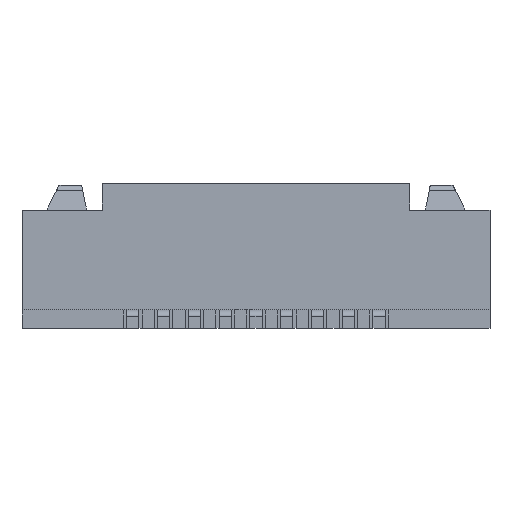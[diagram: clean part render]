
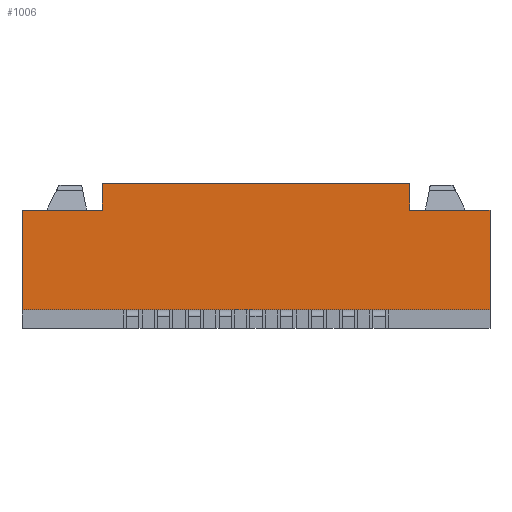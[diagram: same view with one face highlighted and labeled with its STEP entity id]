
A CAD part, front view. The second image highlights one B-rep face of the part: STEP entity #1006.
In plain terms, the highlighted planar face has unit normal (0, -1, 0).
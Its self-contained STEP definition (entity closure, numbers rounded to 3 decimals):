
#399=CARTESIAN_POINT('Vertex',(-2.5,-2.4,1.92)) ;
#402=CARTESIAN_POINT('Line Origine',(-2.5,-2.4,2.135)) ;
#406=CARTESIAN_POINT('Vertex',(-2.5,-2.4,2.35)) ;
#944=CARTESIAN_POINT('Axis2P3D Location',(0.,-2.4,0.3)) ;
#949=CARTESIAN_POINT('Line Origine',(-3.15,-2.4,1.92)) ;
#953=CARTESIAN_POINT('Vertex',(-3.8,-2.4,1.92)) ;
#956=CARTESIAN_POINT('Line Origine',(-3.8,-2.4,1.11)) ;
#960=CARTESIAN_POINT('Vertex',(-3.8,-2.4,0.3)) ;
#963=CARTESIAN_POINT('Line Origine',(0.,-2.4,0.3)) ;
#967=CARTESIAN_POINT('Vertex',(3.8,-2.4,0.3)) ;
#970=CARTESIAN_POINT('Line Origine',(3.8,-2.4,1.11)) ;
#974=CARTESIAN_POINT('Vertex',(3.8,-2.4,1.92)) ;
#977=CARTESIAN_POINT('Line Origine',(3.15,-2.4,1.92)) ;
#981=CARTESIAN_POINT('Vertex',(2.5,-2.4,1.92)) ;
#984=CARTESIAN_POINT('Line Origine',(2.5,-2.4,2.135)) ;
#988=CARTESIAN_POINT('Vertex',(2.5,-2.4,2.35)) ;
#991=CARTESIAN_POINT('Line Origine',(0.,-2.4,2.35)) ;
#403=DIRECTION('Vector Direction',(0.,0.,-1.)) ;
#945=DIRECTION('Axis2P3D Direction',(0.,1.,0.)) ;
#946=DIRECTION('Axis2P3D XDirection',(0.,0.,1.)) ;
#950=DIRECTION('Vector Direction',(1.,0.,0.)) ;
#957=DIRECTION('Vector Direction',(0.,0.,1.)) ;
#964=DIRECTION('Vector Direction',(1.,0.,0.)) ;
#971=DIRECTION('Vector Direction',(0.,0.,1.)) ;
#978=DIRECTION('Vector Direction',(-1.,0.,0.)) ;
#985=DIRECTION('Vector Direction',(0.,0.,-1.)) ;
#992=DIRECTION('Vector Direction',(1.,0.,0.)) ;
#947=AXIS2_PLACEMENT_3D('Plane Axis2P3D',#944,#945,#946) ;
#997=ORIENTED_EDGE('',*,*,#408,.T.) ;
#998=ORIENTED_EDGE('',*,*,#955,.F.) ;
#999=ORIENTED_EDGE('',*,*,#962,.T.) ;
#1000=ORIENTED_EDGE('',*,*,#969,.T.) ;
#1001=ORIENTED_EDGE('',*,*,#976,.F.) ;
#1002=ORIENTED_EDGE('',*,*,#983,.T.) ;
#1003=ORIENTED_EDGE('',*,*,#990,.F.) ;
#1004=ORIENTED_EDGE('',*,*,#995,.F.) ;
#404=VECTOR('Line Direction',#403,1.) ;
#951=VECTOR('Line Direction',#950,1.) ;
#958=VECTOR('Line Direction',#957,1.) ;
#965=VECTOR('Line Direction',#964,1.) ;
#972=VECTOR('Line Direction',#971,1.) ;
#979=VECTOR('Line Direction',#978,1.) ;
#986=VECTOR('Line Direction',#985,1.) ;
#993=VECTOR('Line Direction',#992,1.) ;
#1006=ADVANCED_FACE('\X2\96F64EF651E04F554F53\X0\',(#1005),#948,.F.) ;
#408=EDGE_CURVE('',#407,#400,#405,.T.) ;
#955=EDGE_CURVE('',#954,#400,#952,.T.) ;
#962=EDGE_CURVE('',#954,#961,#959,.F.) ;
#969=EDGE_CURVE('',#961,#968,#966,.T.) ;
#976=EDGE_CURVE('',#975,#968,#973,.F.) ;
#983=EDGE_CURVE('',#975,#982,#980,.T.) ;
#990=EDGE_CURVE('',#989,#982,#987,.T.) ;
#995=EDGE_CURVE('',#407,#989,#994,.T.) ;
#996=EDGE_LOOP('',(#997,#998,#999,#1000,#1001,#1002,#1003,#1004)) ;
#1005=FACE_OUTER_BOUND('',#996,.T.) ;
#405=LINE('Line',#402,#404) ;
#952=LINE('Line',#949,#951) ;
#959=LINE('Line',#956,#958) ;
#966=LINE('Line',#963,#965) ;
#973=LINE('Line',#970,#972) ;
#980=LINE('Line',#977,#979) ;
#987=LINE('Line',#984,#986) ;
#994=LINE('Line',#991,#993) ;
#948=PLANE('Plane',#947) ;
#400=VERTEX_POINT('',#399) ;
#407=VERTEX_POINT('',#406) ;
#954=VERTEX_POINT('',#953) ;
#961=VERTEX_POINT('',#960) ;
#968=VERTEX_POINT('',#967) ;
#975=VERTEX_POINT('',#974) ;
#982=VERTEX_POINT('',#981) ;
#989=VERTEX_POINT('',#988) ;
